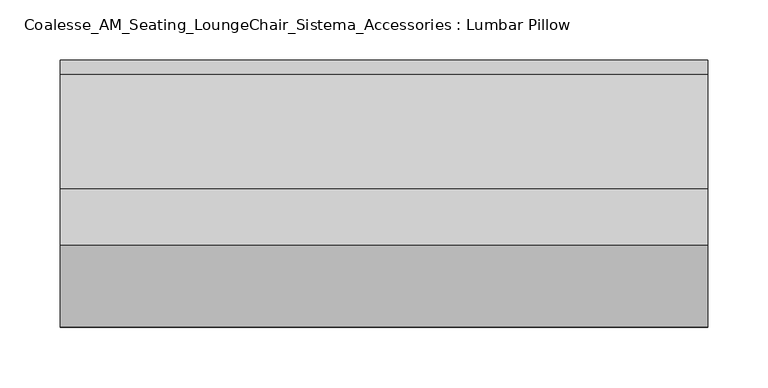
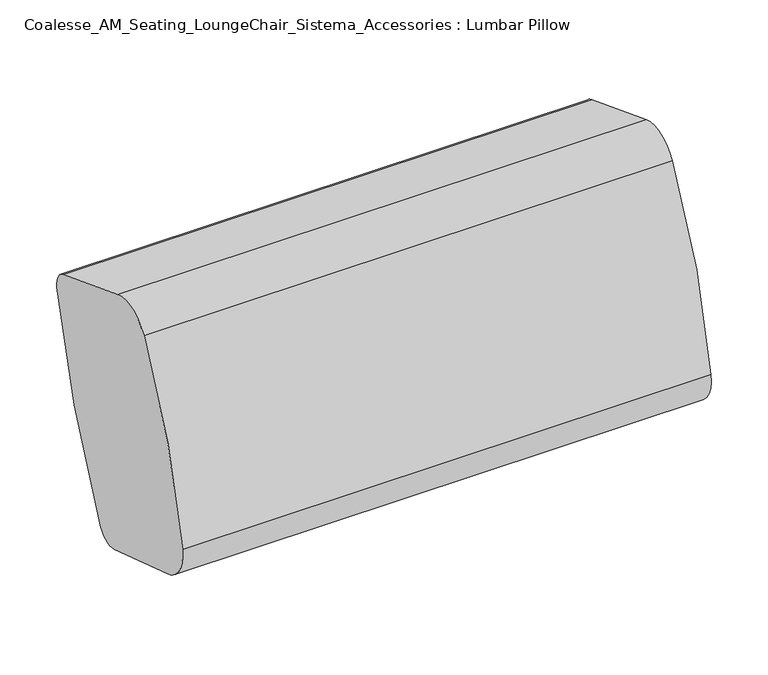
"""IFC4 building model written with IfcOpenShell, lengths in millimetres: furniture geometry, Coalesse_AM_Seating_LoungeChair_Sistema_Accessories : Lumbar Pillow."""

from ifc_helpers import new_model, si_unit, point, frame, frame_2d, origin, place, context, project, spatial, polyline, circle_curve, trimmed, segment, composite_curve, outline, extrude, source, transform, mapped, element, save


def coalesse_am_seating_loungechair_sistema_accessories_lumbar_82db962d(model_context):
    return source(origin(), model_context, "Body", "SweptSolid", [
        extrude(outline(composite_curve([segment(polyline([(-348.6443563, 673.0379803), (-252.9929924, 636.3208618)]), True, "CONTINUOUS"), segment(trimmed(circle_curve(frame_2d((-259.3647746, 619.7218018)), 17.78), [point((-252.9929924, 636.3208618))], [point((-241.9040987, 616.3672232))], False, "CARTESIAN"), True, "CONTINUOUS"), segment(trimmed(circle_curve(frame_2d((-936.638842, 749.8410002)), 707.4401831), [point((-241.9040987, 616.3672232))], [point((-319.0835227, 404.7366098))], False, "CARTESIAN"), True, "CONTINUOUS"), segment(trimmed(circle_curve(frame_2d((-336.7580067, 414.6135258)), 20.2469962), [point((-319.0835227, 404.7366098))], [point((-343.0146726, 395.3574882))], False, "CARTESIAN"), True, "CONTINUOUS"), segment(polyline([(-343.0146726, 395.3574882), (-437.0580673, 425.9140394)]), True, "CONTINUOUS"), segment(trimmed(circle_curve(frame_2d((-425.2845198, 462.1492927)), 38.1), [point((-437.0580673, 425.9140394))], [point((-462.9259537, 468.0427177))], False, "CARTESIAN"), True, "CONTINUOUS"), segment(trimmed(circle_curve(frame_2d((62.9964674, 385.7003621)), 532.3294623), [point((-462.9259537, 468.0427177))], [point((-395.0840107, 656.8773009))], False, "CARTESIAN"), True, "CONTINUOUS"), segment(trimmed(circle_curve(frame_2d((-362.2981752, 637.468566)), 38.1), [point((-395.0840107, 656.8773009))], [point((-348.6443563, 673.0379803))], False, "CARTESIAN"), True, "CONTINUOUS")], self_intersect=False)), frame((-268.4460934, 0.0, 0.0), z_axis=(1.0, 0.0, 0.0), x_axis=(0.0, 1.0, 0.0)), (0.0, 0.0, 1.0), 536.9597681),
    ])


if __name__ == "__main__":
    model = new_model("IFC4")
    model_context = context("Model", 3, world=origin())
    ifc_project = project(units=[si_unit("LENGTHUNIT", "METRE", prefix="MILLI")], contexts=[model_context])
    site = spatial("IfcSite", under=ifc_project)
    building = spatial("IfcBuilding", under=site)
    placement = place(None, origin())
    coalesse_am_seating_loungechair_sistema_accessories_lumbar_shape = coalesse_am_seating_loungechair_sistema_accessories_lumbar_82db962d(model_context)
    element("IfcFurniture", 1, ObjectType="Coalesse_AM_Seating_LoungeChair_Sistema_Accessories : Lumbar Pillow", at=placement, inside=building, context=model_context, shape_type="MappedRepresentation", body=[
        mapped(coalesse_am_seating_loungechair_sistema_accessories_lumbar_shape, transform((0.0, 0.0, 0.0), x_axis=(1.0, 0.0, 0.0), y_axis=(0.0, 1.0, 0.0), z_axis=(0.0, 0.0, 1.0))),
    ])
    save(model, "model.ifc")
